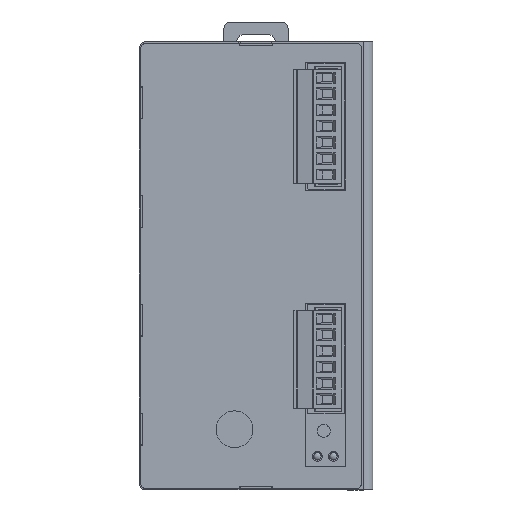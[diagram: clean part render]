
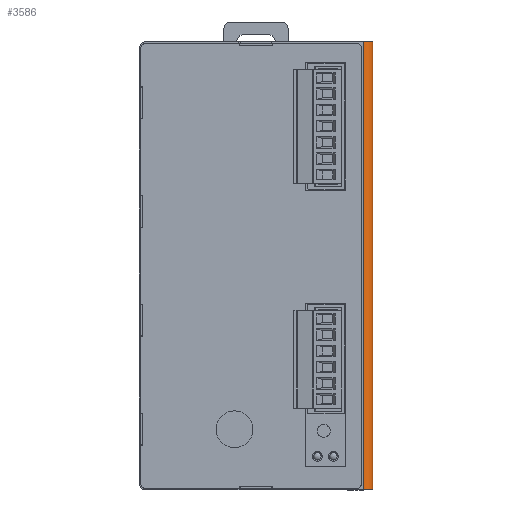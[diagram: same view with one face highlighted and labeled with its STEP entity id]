
A CAD part, left-side view. The second image highlights one B-rep face of the part: STEP entity #3586.
In plain terms, the highlighted cylindrical face has radius 3 mm (diameter 6 mm), a partial arc.
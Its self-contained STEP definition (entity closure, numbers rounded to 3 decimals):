
#2938 = DIRECTION ( 'NONE',  ( 0., 0., -1. ) ) ;
#3586 = ADVANCED_FACE ( 'NONE', ( #101319 ), #16584, .T. ) ;
#16584 = CYLINDRICAL_SURFACE ( 'NONE', #74713, 3. ) ;
#31063 = EDGE_CURVE ( 'NONE', #58542, #61663, #79032, .T. ) ;
#33650 = LINE ( 'NONE', #104640, #173479 ) ;
#50191 = VERTEX_POINT ( 'NONE', #153396 ) ;
#58542 = VERTEX_POINT ( 'NONE', #60159 ) ;
#59312 = DIRECTION ( 'NONE',  ( 0., -1., 0. ) ) ;
#59917 = EDGE_CURVE ( 'NONE', #50191, #58542, #33650, .T. ) ;
#60159 = CARTESIAN_POINT ( 'NONE',  ( -59.5, -36.5, 70. ) ) ;
#61663 = VERTEX_POINT ( 'NONE', #161484 ) ;
#62403 = DIRECTION ( 'NONE',  ( 0., 0., 1. ) ) ;
#62807 = CARTESIAN_POINT ( 'NONE',  ( -59.5, -33.5, -70. ) ) ;
#64924 = DIRECTION ( 'NONE',  ( 0., 0., -1. ) ) ;
#74713 = AXIS2_PLACEMENT_3D ( 'NONE', #62807, #62403, #59312 ) ;
#78238 = AXIS2_PLACEMENT_3D ( 'NONE', #84034, #2938, #97628 ) ;
#79032 = CIRCLE ( 'NONE', #138189, 3. ) ;
#79330 = ORIENTED_EDGE ( 'NONE', *, *, #148699, .T. ) ;
#84034 = CARTESIAN_POINT ( 'NONE',  ( -59.5, -33.5, -70. ) ) ;
#97628 = DIRECTION ( 'NONE',  ( 0., -1., 0. ) ) ;
#101319 = FACE_OUTER_BOUND ( 'NONE', #112239, .T. ) ;
#103644 = DIRECTION ( 'NONE',  ( 0., 0., 1. ) ) ;
#104640 = CARTESIAN_POINT ( 'NONE',  ( -59.5, -36.5, -70. ) ) ;
#108299 = DIRECTION ( 'NONE',  ( 0., -1., 0. ) ) ;
#108847 = DIRECTION ( 'NONE',  ( 0., 0., -1. ) ) ;
#108875 = CARTESIAN_POINT ( 'NONE',  ( -59.5, -33.5, 70. ) ) ;
#111270 = CARTESIAN_POINT ( 'NONE',  ( -62.5, -33.5, -70. ) ) ;
#112239 = EDGE_LOOP ( 'NONE', ( #132876, #79330, #132501, #174809 ) ) ;
#112325 = VERTEX_POINT ( 'NONE', #111270 ) ;
#123358 = VECTOR ( 'NONE', #64924, 1000. ) ;
#127616 = LINE ( 'NONE', #132375, #123358 ) ;
#132375 = CARTESIAN_POINT ( 'NONE',  ( -62.5, -33.5, -70. ) ) ;
#132501 = ORIENTED_EDGE ( 'NONE', *, *, #166154, .F. ) ;
#132876 = ORIENTED_EDGE ( 'NONE', *, *, #31063, .T. ) ;
#138189 = AXIS2_PLACEMENT_3D ( 'NONE', #108875, #108847, #108299 ) ;
#148699 = EDGE_CURVE ( 'NONE', #61663, #112325, #127616, .T. ) ;
#153396 = CARTESIAN_POINT ( 'NONE',  ( -59.5, -36.5, -70. ) ) ;
#161484 = CARTESIAN_POINT ( 'NONE',  ( -62.5, -33.5, 70. ) ) ;
#166154 = EDGE_CURVE ( 'NONE', #50191, #112325, #174750, .T. ) ;
#173479 = VECTOR ( 'NONE', #103644, 1000. ) ;
#174750 = CIRCLE ( 'NONE', #78238, 3. ) ;
#174809 = ORIENTED_EDGE ( 'NONE', *, *, #59917, .T. ) ;
